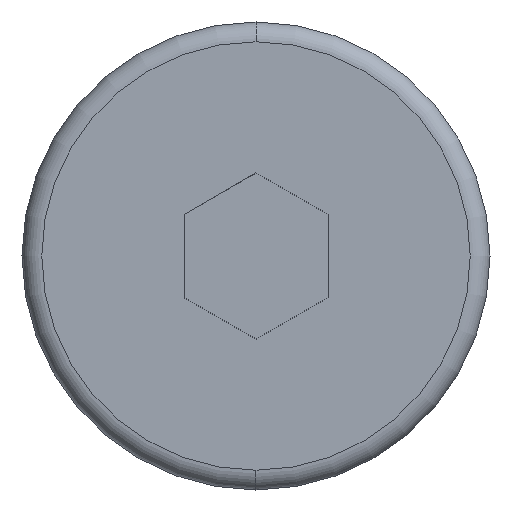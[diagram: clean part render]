
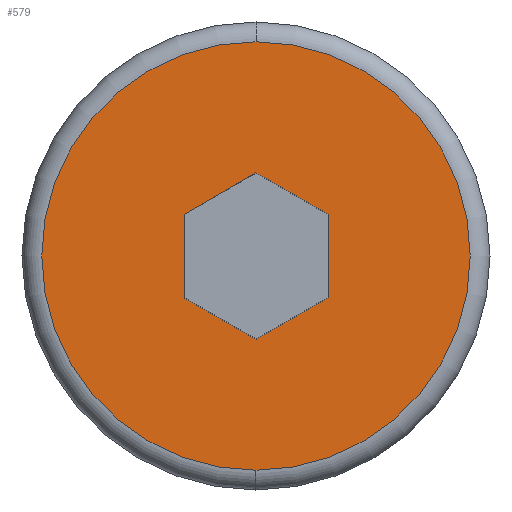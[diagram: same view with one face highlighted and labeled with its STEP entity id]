
A CAD part, left-side view. The second image highlights one B-rep face of the part: STEP entity #579.
In plain terms, the highlighted planar face has unit normal (-1, 0, 0).
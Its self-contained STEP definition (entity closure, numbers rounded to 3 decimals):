
#21 = EDGE_CURVE ( 'NONE', #689, #243, #450, .T. ) ;
#25 = CARTESIAN_POINT ( 'NONE',  ( -5.5, 0., -2.309 ) ) ;
#29 = VECTOR ( 'NONE', #912, 1000. ) ;
#41 = CIRCLE ( 'NONE', #860, 5.95 ) ;
#47 = CARTESIAN_POINT ( 'NONE',  ( -5.5, 2., -1.155 ) ) ;
#50 = ORIENTED_EDGE ( 'NONE', *, *, #469, .F. ) ;
#146 = DIRECTION ( 'NONE',  ( -1., 0., 0. ) ) ;
#157 = VERTEX_POINT ( 'NONE', #498 ) ;
#165 = DIRECTION ( 'NONE',  ( 0., 0., -1. ) ) ;
#168 = VECTOR ( 'NONE', #165, 1000. ) ;
#213 = ORIENTED_EDGE ( 'NONE', *, *, #934, .F. ) ;
#234 = CARTESIAN_POINT ( 'NONE',  ( -5.5, 2., -1.155 ) ) ;
#243 = VERTEX_POINT ( 'NONE', #507 ) ;
#247 = EDGE_CURVE ( 'NONE', #994, #689, #345, .T. ) ;
#260 = VERTEX_POINT ( 'NONE', #816 ) ;
#271 = PLANE ( 'NONE',  #524 ) ;
#328 = CARTESIAN_POINT ( 'NONE',  ( -5.5, 0., 2.309 ) ) ;
#339 = DIRECTION ( 'NONE',  ( 0., 0., -1. ) ) ;
#345 = LINE ( 'NONE', #25, #856 ) ;
#347 = ORIENTED_EDGE ( 'NONE', *, *, #533, .F. ) ;
#348 = ORIENTED_EDGE ( 'NONE', *, *, #247, .F. ) ;
#356 = CARTESIAN_POINT ( 'NONE',  ( -5.5, 0., 0. ) ) ;
#395 = CARTESIAN_POINT ( 'NONE',  ( -5.5, -2., -1.155 ) ) ;
#425 = VECTOR ( 'NONE', #650, 1000. ) ;
#432 = LINE ( 'NONE', #437, #425 ) ;
#437 = CARTESIAN_POINT ( 'NONE',  ( -5.5, -2., 1.155 ) ) ;
#441 = VERTEX_POINT ( 'NONE', #328 ) ;
#450 = LINE ( 'NONE', #395, #29 ) ;
#457 = CIRCLE ( 'NONE', #624, 5.95 ) ;
#469 = EDGE_CURVE ( 'NONE', #599, #727, #559, .T. ) ;
#471 = DIRECTION ( 'NONE',  ( 0., 0.866, -0.5 ) ) ;
#481 = EDGE_CURVE ( 'NONE', #727, #994, #491, .T. ) ;
#491 = LINE ( 'NONE', #234, #787 ) ;
#498 = CARTESIAN_POINT ( 'NONE',  ( -5.5, 0., -5.95 ) ) ;
#507 = CARTESIAN_POINT ( 'NONE',  ( -5.5, -2., 1.155 ) ) ;
#524 = AXIS2_PLACEMENT_3D ( 'NONE', #356, #646, #339 ) ;
#531 = CARTESIAN_POINT ( 'NONE',  ( -5.5, 0., 0. ) ) ;
#533 = EDGE_CURVE ( 'NONE', #243, #441, #432, .T. ) ;
#559 = LINE ( 'NONE', #854, #168 ) ;
#563 = DIRECTION ( 'NONE',  ( 0., -0.866, -0.5 ) ) ;
#567 = EDGE_CURVE ( 'NONE', #157, #260, #41, .T. ) ;
#579 = ADVANCED_FACE ( 'NONE', ( #589, #867 ), #271, .F. ) ;
#589 = FACE_BOUND ( 'NONE', #826, .T. ) ;
#599 = VERTEX_POINT ( 'NONE', #864 ) ;
#624 = AXIS2_PLACEMENT_3D ( 'NONE', #531, #146, #822 ) ;
#646 = DIRECTION ( 'NONE',  ( 1., 0., 0. ) ) ;
#650 = DIRECTION ( 'NONE',  ( 0., 0.866, 0.5 ) ) ;
#651 = DIRECTION ( 'NONE',  ( 0., -0.866, 0.5 ) ) ;
#652 = VECTOR ( 'NONE', #471, 1000. ) ;
#668 = CARTESIAN_POINT ( 'NONE',  ( -5.5, -2., -1.155 ) ) ;
#683 = EDGE_CURVE ( 'NONE', #260, #157, #457, .T. ) ;
#689 = VERTEX_POINT ( 'NONE', #668 ) ;
#727 = VERTEX_POINT ( 'NONE', #47 ) ;
#738 = CARTESIAN_POINT ( 'NONE',  ( -5.5, 0., 0. ) ) ;
#765 = LINE ( 'NONE', #991, #652 ) ;
#767 = EDGE_LOOP ( 'NONE', ( #873, #939 ) ) ;
#787 = VECTOR ( 'NONE', #563, 1000. ) ;
#795 = DIRECTION ( 'NONE',  ( 0., 0., 1. ) ) ;
#802 = ORIENTED_EDGE ( 'NONE', *, *, #481, .F. ) ;
#804 = DIRECTION ( 'NONE',  ( -1., 0., 0. ) ) ;
#816 = CARTESIAN_POINT ( 'NONE',  ( -5.5, 0., 5.95 ) ) ;
#822 = DIRECTION ( 'NONE',  ( 0., 0., 1. ) ) ;
#826 = EDGE_LOOP ( 'NONE', ( #213, #347, #980, #348, #802, #50 ) ) ;
#854 = CARTESIAN_POINT ( 'NONE',  ( -5.5, 2., 1.155 ) ) ;
#856 = VECTOR ( 'NONE', #651, 1000. ) ;
#860 = AXIS2_PLACEMENT_3D ( 'NONE', #738, #804, #795 ) ;
#864 = CARTESIAN_POINT ( 'NONE',  ( -5.5, 2., 1.155 ) ) ;
#867 = FACE_OUTER_BOUND ( 'NONE', #767, .T. ) ;
#873 = ORIENTED_EDGE ( 'NONE', *, *, #683, .T. ) ;
#881 = CARTESIAN_POINT ( 'NONE',  ( -5.5, 0., -2.309 ) ) ;
#912 = DIRECTION ( 'NONE',  ( 0., 0., 1. ) ) ;
#934 = EDGE_CURVE ( 'NONE', #441, #599, #765, .T. ) ;
#939 = ORIENTED_EDGE ( 'NONE', *, *, #567, .T. ) ;
#980 = ORIENTED_EDGE ( 'NONE', *, *, #21, .F. ) ;
#991 = CARTESIAN_POINT ( 'NONE',  ( -5.5, 0., 2.309 ) ) ;
#994 = VERTEX_POINT ( 'NONE', #881 ) ;
